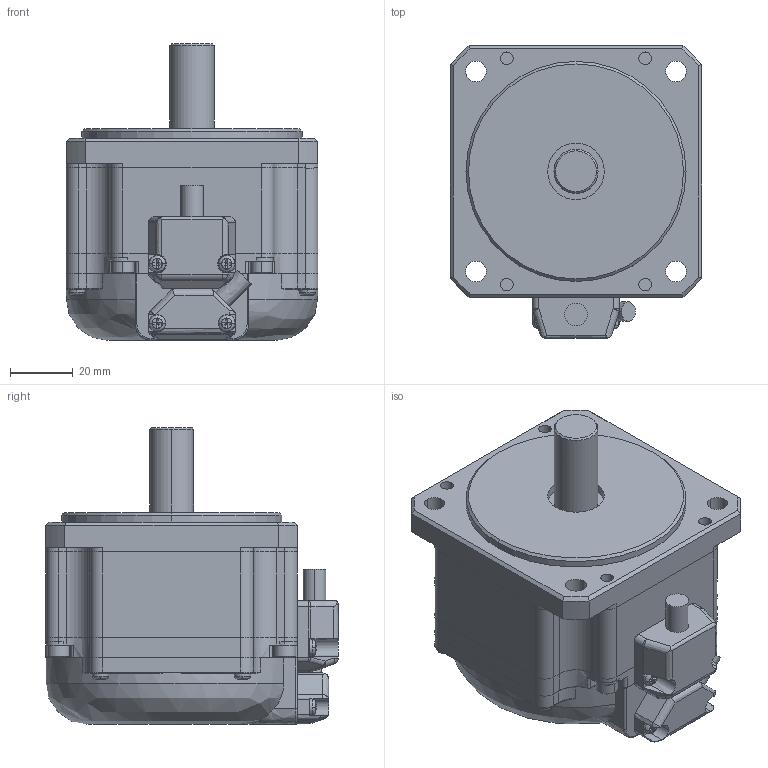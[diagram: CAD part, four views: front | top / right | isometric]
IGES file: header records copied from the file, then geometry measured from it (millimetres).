
Start section: Elysium IGES Interface
Global section: file name: 79H\\nas63\design\04MC研\saka\3DCAD\TBL-i2カタログまとめ\IGSデータ\TS4611_BK無.igs; native system: Creo Elements/Direct Modeling 17.0F  20-Aug-2012; preprocessor: Creo Element/Direct IGES_3D V2.2; author: Unknown; organization: Unknown; date: 20161222.163008; units: millimetre
Bounding box: 80 x 93 x 94.3 mm (x, y, z)
Volume: 374536.4 mm3; surface area: 35584.1 mm2
Topology: 1 solids, 1 shells, 667 faces, 1580 edges, 919 vertices
Faces by surface type: bspline 667
